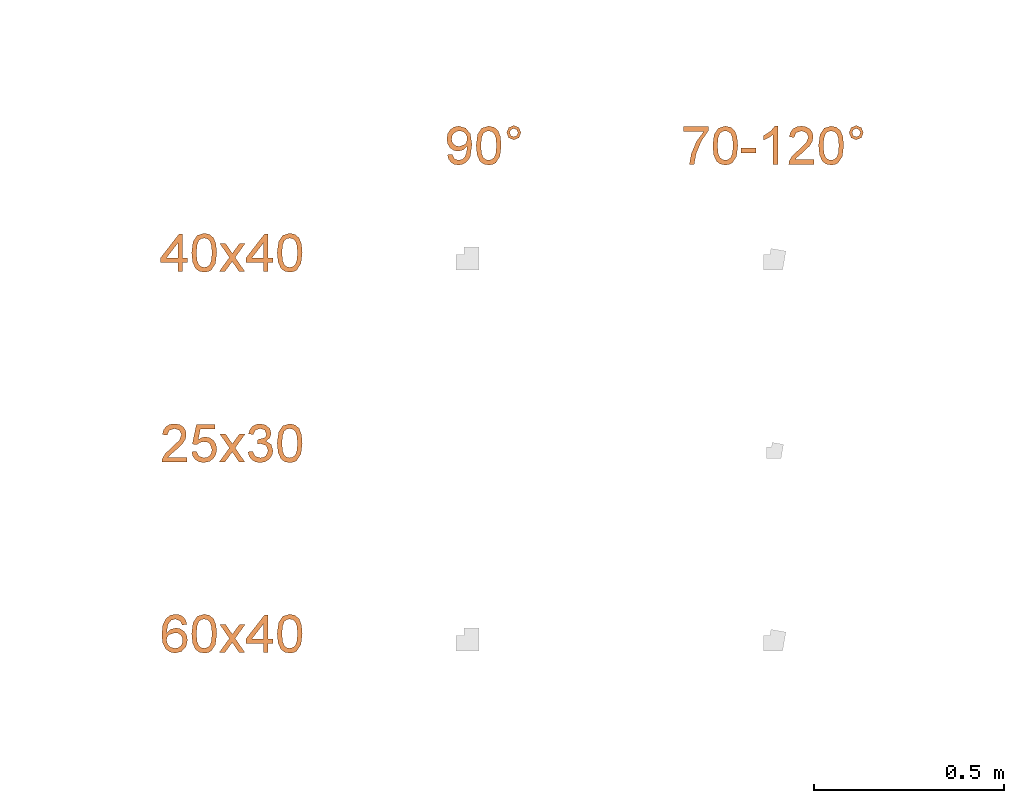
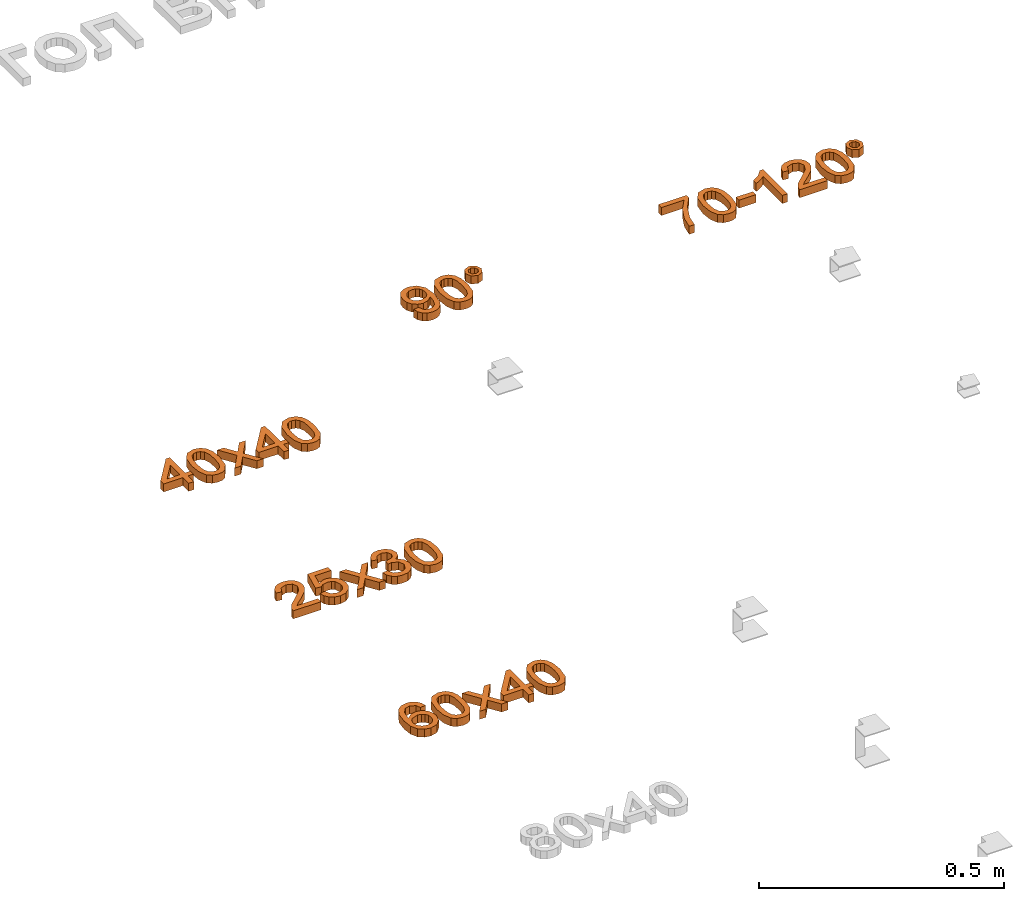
# One storey, part 61 of 71: 5 proxies.
"""IFC2X3 building model written with IfcOpenShell, lengths in millimetres."""

from ifc_helpers import new_model, entity, si_unit, converted_unit, derived_unit, direction, frame, frame_2d, origin, place, context, subcontext, project, spatial, polyline, rectangle, outline, extrude, element, save


model = new_model("IFC2X3")

# Units and contexts
model_context = context("Model", 3, precision=0.01, world=origin(), true_north=direction((6.12303176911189e-17, 1.0)))
body_context = subcontext(model_context, "Body", "Model", "MODEL_VIEW")
ifc_project = project(units=[si_unit("LENGTHUNIT", "METRE", prefix="MILLI"), si_unit("AREAUNIT", "SQUARE_METRE"), si_unit("VOLUMEUNIT", "CUBIC_METRE"), converted_unit("PLANEANGLEUNIT", "DEGREE", entity("IfcRatioMeasure", 0.0174532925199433), si_unit("PLANEANGLEUNIT", "RADIAN"), dimensions=[0, 0, 0, 0, 0, 0, 0]), si_unit("MASSUNIT", "GRAM", prefix="KILO"), derived_unit("MASSDENSITYUNIT", [(si_unit("MASSUNIT", "GRAM", prefix="KILO"), 1), (si_unit("LENGTHUNIT", "METRE"), -3)]), si_unit("TIMEUNIT", "SECOND"), si_unit("FREQUENCYUNIT", "HERTZ"), si_unit("THERMODYNAMICTEMPERATUREUNIT", "DEGREE_CELSIUS"), derived_unit("THERMALTRANSMITTANCEUNIT", [(si_unit("MASSUNIT", "GRAM", prefix="KILO"), 1), (si_unit("THERMODYNAMICTEMPERATUREUNIT", "KELVIN"), -1), (si_unit("TIMEUNIT", "SECOND"), -3)]), derived_unit("VOLUMETRICFLOWRATEUNIT", [(si_unit("LENGTHUNIT", "METRE"), 3), (si_unit("TIMEUNIT", "SECOND"), -1)]), si_unit("ELECTRICCURRENTUNIT", "AMPERE"), si_unit("ELECTRICVOLTAGEUNIT", "VOLT"), si_unit("POWERUNIT", "WATT"), si_unit("FORCEUNIT", "NEWTON", prefix="KILO"), si_unit("ILLUMINANCEUNIT", "LUX"), si_unit("LUMINOUSFLUXUNIT", "LUMEN"), si_unit("LUMINOUSINTENSITYUNIT", "CANDELA"), derived_unit("USERDEFINED", [(si_unit("MASSUNIT", "GRAM", prefix="KILO"), -1), (si_unit("LENGTHUNIT", "METRE"), -2), (si_unit("TIMEUNIT", "SECOND"), 3), (si_unit("LUMINOUSFLUXUNIT", "LUMEN"), 1)]), derived_unit("LINEARVELOCITYUNIT", [(si_unit("LENGTHUNIT", "METRE"), 1), (si_unit("TIMEUNIT", "SECOND"), -1)]), si_unit("PRESSUREUNIT", "PASCAL"), derived_unit("USERDEFINED", [(si_unit("LENGTHUNIT", "METRE"), -2), (si_unit("MASSUNIT", "GRAM", prefix="KILO"), 1), (si_unit("TIMEUNIT", "SECOND"), -2)])], contexts=[model_context])

# Site, building, storey
site_placement = place(None, origin())
site = spatial("IfcSite", under=ifc_project, at=site_placement, Name="Default", CompositionType="ELEMENT")
building_placement = place(site_placement, origin())
building = spatial("IfcBuilding", under=site, at=building_placement, Name="Наименование здания", CompositionType="ELEMENT")
storey_placement = place(building_placement, origin())
storey = spatial("IfcBuildingStorey", under=building, at=storey_placement, Name="Этаж 01", CompositionType="ELEMENT", Elevation=0.0)

# Proxies
proxy_1_placement = place(storey_placement, origin())
element("IfcBuildingElementProxy", 1, at=proxy_1_placement, inside=storey, Name="Текст модели:100 мм Arial", ObjectType="Текст модели:100 мм Arial", context=body_context, shape_type="SweptSolid", body=[
    extrude(outline(polyline([(-1.14154897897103, -36.3868737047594), (11.4154897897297, -36.3868737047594), (11.4154897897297, -12.8424260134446), (23.9725285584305, -12.8424260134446), (23.9725285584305, -0.285387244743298), (11.4154897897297, -0.285387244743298), (11.4154897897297, 62.4998065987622), (1.99771071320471, 62.4998065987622), (-46.6608145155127, -0.285387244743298), (-46.6608145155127, -12.8424260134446), (-1.14154897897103, -12.8424260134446), (-1.14154897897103, -36.3868737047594)]), holes=[polyline([(-1.14154897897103, -0.285387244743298), (-31.2097707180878, -0.285387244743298), (-1.14154897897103, 38.5139005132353), (-1.14154897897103, -0.285387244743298)])]), frame((18100.8514616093, 3073.05161790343, 0.0)), (0.0, 0.0, 1.0), 20.0),
    extrude(outline(polyline([(-7.02884310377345, -33.3490673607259), (17.532380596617, -33.3490673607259), (35.1984171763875, -27.6137612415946), (43.3439841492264, -18.4876517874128), (47.0516941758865, -5.75150665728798), (46.7162020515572, 4.48638208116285), (43.4465778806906, 13.095528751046), (27.9444305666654, 25.6659118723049), (-0.314338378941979, 32.2325535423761), (-24.0296505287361, 32.3678288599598), (-39.4143020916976, 28.0260881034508), (-49.7293680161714, 18.9002174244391), (-54.4436715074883, 4.63998875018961), (-50.8676582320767, -14.1301059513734), (-35.4058547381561, -26.7333390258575), (-7.02884310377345, -33.3490673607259)]), holes=[polyline([(-5.77428774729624, -20.8548320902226), (-25.0157644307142, -17.356286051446), (-36.7257089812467, -11.5717922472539), (-41.0962588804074, -4.7759968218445), (-41.9669219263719, 3.21464792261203), (-39.2244253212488, 11.2791292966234), (-32.8654063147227, 17.222925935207), (-20.9698370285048, 20.2947501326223), (-1.61768958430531, 19.7433141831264), (17.8514140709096, 16.2707701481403), (28.7803640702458, 10.714159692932), (33.5546988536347, 3.61815959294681), (34.5599568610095, -4.47255337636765), (31.9421230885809, -12.1923199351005), (25.8471825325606, -18.1754808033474), (14.0250679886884, -21.4027476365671), (-5.77428774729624, -20.8548320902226)])]), frame((18169.7029366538, 3082.487921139, 0.0), z_axis=(0.0, 0.0, 1.0), x_axis=(0.1018515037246, -0.994799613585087, 0.0)), (0.0, 0.0, 1.0), 20.0),
    extrude(outline(polyline([(-34.530221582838, -38.4265006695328), (-19.422534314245, -38.4265006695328), (-0.341721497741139, -12.0616243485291), (2.47870713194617, -16.1328517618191), (17.8561745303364, -38.4265006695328), (32.9638617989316, -38.4265006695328), (7.40832586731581, -1.34399555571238), (33.944880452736, 35.3461020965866), (18.8371931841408, 35.3461020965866), (4.95577923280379, 16.1671874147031), (0.0261604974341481, 9.34910777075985), (-5.66374769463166, 17.6877663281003), (-17.8529044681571, 35.3461020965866), (-32.9605917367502, 35.3461020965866), (-7.6993614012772, -1.34399555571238), (-34.530221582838, -38.4265006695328)])), frame((18242.5445935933, 3075.0912448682, 0.0)), (0.0, 0.0, 1.0), 20.0),
    extrude(outline(polyline([(-1.14154897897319, -36.3868737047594), (11.4154897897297, -36.3868737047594), (11.4154897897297, -12.8424260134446), (23.9725285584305, -12.8424260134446), (23.9725285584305, -0.285387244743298), (11.4154897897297, -0.285387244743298), (11.4154897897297, 62.4998065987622), (1.99771071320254, 62.4998065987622), (-46.6608145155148, -0.285387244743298), (-46.6608145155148, -12.8424260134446), (-1.14154897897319, -12.8424260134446), (-1.14154897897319, -36.3868737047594)]), holes=[polyline([(-1.14154897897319, -0.285387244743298), (-31.2097707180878, -0.285387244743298), (-1.14154897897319, 38.5139005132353), (-1.14154897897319, -0.285387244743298)])]), frame((18325.3085295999, 3073.05161790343, 0.0)), (0.0, 0.0, 1.0), 20.0),
    extrude(outline(polyline([(-7.02884310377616, -33.3490673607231), (17.5323805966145, -33.3490673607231), (35.1984171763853, -27.6137612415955), (43.343984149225, -18.4876517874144), (47.0516941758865, -5.75150665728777), (46.716202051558, 4.48638208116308), (43.4465778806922, 13.0955287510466), (27.9444305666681, 25.6659118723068), (-0.314338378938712, 32.2325535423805), (-24.0296505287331, 32.367828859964), (-39.4143020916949, 28.0260881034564), (-49.7293680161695, 18.9002174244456), (-54.4436715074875, 4.63998875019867), (-50.8676582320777, -14.1301059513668), (-35.405854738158, -26.7333390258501), (-7.02884310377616, -33.3490673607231)]), holes=[polyline([(-5.77428774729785, -20.85483209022), (-25.0157644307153, -17.3562860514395), (-36.7257089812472, -11.5717922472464), (-41.0962588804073, -4.77599682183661), (-41.9669219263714, 3.21464792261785), (-39.2244253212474, 11.2791292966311), (-32.8654063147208, 17.2229259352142), (-20.9698370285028, 20.2947501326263), (-1.61768958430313, 19.7433141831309), (17.8514140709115, 16.2707701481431), (28.7803640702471, 10.7141596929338), (33.5546988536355, 3.61815959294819), (34.5599568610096, -4.47255337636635), (31.9421230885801, -12.1923199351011), (25.8471825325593, -18.1754808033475), (14.0250679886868, -21.4027476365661), (-5.77428774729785, -20.85483209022)])]), frame((18394.1600046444, 3082.487921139, 0.0), z_axis=(0.0, 0.0, 1.0), x_axis=(0.101851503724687, -0.994799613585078, 0.0)), (0.0, 0.0, 1.0), 20.0),
])
proxy_2_placement = place(storey_placement, origin())
element("IfcBuildingElementProxy", 2, at=proxy_2_placement, inside=storey, Name="Текст модели:100 мм Arial", ObjectType="Текст модели:100 мм Arial", context=body_context, shape_type="SweptSolid", body=[
    extrude(outline(polyline([(-32.385878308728, -45.1669477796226), (-32.385878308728, -57.7239865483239), (33.5385752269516, -57.7239865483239), (32.1896745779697, -49.0664969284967), (24.5622545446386, -35.7369059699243), (8.84143061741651, -21.1810416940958), (-12.8390816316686, -0.260818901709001), (-18.2592096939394, 13.9639515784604), (-13.1456499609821, 25.4786580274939), (0.208466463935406, 30.1752848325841), (14.1266686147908, 25.5890226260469), (19.4119066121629, 12.9093565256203), (31.9689453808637, 14.4789863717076), (28.9247218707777, 26.6252235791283), (22.3426998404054, 35.4973110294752), (12.5662358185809, 40.9235704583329), (-0.0613136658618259, 42.7323236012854), (-12.7808336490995, 40.7212353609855), (-22.5389035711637, 34.6879706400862), (-28.746912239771, 25.6748617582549), (-30.8162484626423, 14.7242410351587), (-28.5844310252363, 2.81712712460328), (-21.1654774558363, -9.49465698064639), (-3.17604789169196, -26.6992716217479), (11.2694517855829, -38.7780637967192), (16.9348345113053, -45.1669477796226), (-32.385878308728, -45.1669477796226)])), frame((18090.868482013, 2594.38873074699, 0.0), z_axis=(0.0, 0.0, -1.0), x_axis=(-1.0, 0.0, 0.0)), (0.0, 0.0, -1.0), 20.0),
    extrude(outline(polyline([(3.81439562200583, -37.2548959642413), (15.7323946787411, -37.2548959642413), (26.1588137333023, -33.0579698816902), (34.2921694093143, -25.053720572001), (39.3309783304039, -13.6317508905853), (40.2219288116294, 1.43409098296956), (34.3991305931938, 14.6815107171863), (25.5350217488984, 23.1481891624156), (13.9054384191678, 28.2770976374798), (0.912111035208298, 29.4702838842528), (-10.7159258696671, 25.7768606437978), (-19.7427074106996, 18.0989984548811), (-24.9322687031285, 7.33886785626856), (-25.5937300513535, -2.21124798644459), (-22.6370240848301, -12.2793380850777), (-47.9924930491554, 0.020488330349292), (-38.0977082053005, 37.232406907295), (-50.2330599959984, 40.4592412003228), (-62.7370428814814, -6.56524698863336), (-15.5021967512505, -30.4943712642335), (-10.7584434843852, -18.7623737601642), (-14.421629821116, -10.4922324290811), (-13.6981616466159, 0.722667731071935), (-9.98738154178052, 9.35727561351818), (-4.32553373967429, 14.6878856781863), (11.4370636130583, 15.9400687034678), (19.748168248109, 12.2772427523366), (25.4355726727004, 6.40632241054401), (28.0665145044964, -1.2721201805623), (27.2082313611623, -10.3575128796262), (19.6530635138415, -21.9256319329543), (5.52431094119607, -24.7161898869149), (3.81439562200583, -37.2548959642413)])), frame((18170.8350104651, 2576.60829824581, 0.0), z_axis=(0.0, 0.0, 1.0), x_axis=(0.256974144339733, -0.966418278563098, 0.0)), (0.0, 0.0, 1.0), 20.0),
    extrude(outline(polyline([(-34.530221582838, -38.4265006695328), (-19.422534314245, -38.4265006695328), (-0.341721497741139, -12.0616243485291), (2.47870713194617, -16.1328517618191), (17.8561745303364, -38.4265006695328), (32.9638617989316, -38.4265006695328), (7.40832586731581, -1.34399555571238), (33.944880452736, 35.3461020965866), (18.8371931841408, 35.3461020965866), (4.95577923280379, 16.1671874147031), (0.0261604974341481, 9.34910777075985), (-5.66374769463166, 17.6877663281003), (-17.8529044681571, 35.3461020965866), (-32.9605917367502, 35.3461020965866), (-7.6993614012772, -1.34399555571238), (-34.530221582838, -38.4265006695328)])), frame((18242.5445935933, 2575.0912448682, 0.0)), (0.0, 0.0, 1.0), 20.0),
    extrude(outline(polyline([(12.9398224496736, -39.4228746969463), (24.7070155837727, -39.4228746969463), (35.2334179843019, -35.1796885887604), (43.5392113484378, -27.2068749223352), (48.6445773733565, -16.0179922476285), (49.9667297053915, -2.46420805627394), (46.1713151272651, 9.85942403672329), (38.2123508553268, 19.5155094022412), (27.0438541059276, 25.0666534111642), (10.0202742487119, 24.7454624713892), (-1.87398827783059, 13.8140826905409), (-7.17156856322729, 25.9452321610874), (-17.4163250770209, 32.3622268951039), (-30.6023287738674, 32.172341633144), (-42.4844766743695, 24.4416767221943), (-49.8086882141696, 10.7455169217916), (-51.0194511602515, -0.289536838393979), (-48.3411699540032, -10.3555163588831), (-41.9598673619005, -18.9246782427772), (-32.0615661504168, -25.469279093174), (-27.2304373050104, -13.7729910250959), (-36.958213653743, -4.725857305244), (-37.5811201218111, 7.85403171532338), (-30.7090409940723, 18.2284262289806), (-20.0239599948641, 20.0569105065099), (-14.1616694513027, 16.8110341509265), (-11.0038541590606, 11.0256101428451), (-11.2910014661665, -3.66989129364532), (-11.964206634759, -5.57066078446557), (-0.222565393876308, -10.2362102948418), (0.778769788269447, -1.38153044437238), (9.50511511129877, 11.0278528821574), (23.5137057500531, 13.0140189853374), (35.3107062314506, 3.90868905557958), (37.5820165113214, -3.60465058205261), (36.6502541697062, -12.2749561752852), (29.3231481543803, -23.7071568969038), (14.7432148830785, -26.8972714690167), (12.9398224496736, -39.4228746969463)])), frame((18317.9605854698, 2586.24313576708, 0.0), z_axis=(0.0, 0.0, 1.0), x_axis=(0.264175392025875, -0.964474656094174, 0.0)), (0.0, 0.0, 1.0), 20.0),
    extrude(outline(polyline([(-7.02884310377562, -33.3490673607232), (17.5323805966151, -33.3490673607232), (35.1984171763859, -27.6137612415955), (43.3439841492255, -18.4876517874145), (47.051694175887, -5.75150665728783), (46.7162020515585, 4.48638208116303), (43.4465778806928, 13.0955287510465), (27.9444305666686, 25.6659118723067), (-0.314338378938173, 32.2325535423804), (-24.0296505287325, 32.367828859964), (-39.4143020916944, 28.0260881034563), (-49.729368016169, 18.9002174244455), (-54.4436715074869, 4.63998875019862), (-50.8676582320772, -14.1301059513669), (-35.4058547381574, -26.7333390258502), (-7.02884310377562, -33.3490673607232)]), holes=[polyline([(-5.77428774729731, -20.85483209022), (-25.0157644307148, -17.3562860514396), (-36.7257089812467, -11.5717922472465), (-41.0962588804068, -4.77599682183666), (-41.9669219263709, 3.21464792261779), (-39.2244253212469, 11.2791292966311), (-32.8654063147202, 17.2229259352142), (-20.9698370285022, 20.2947501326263), (-1.61768958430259, 19.7433141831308), (17.851414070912, 16.270770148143), (28.7803640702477, 10.7141596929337), (33.554698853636, 3.61815959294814), (34.5599568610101, -4.47255337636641), (31.9421230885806, -12.1923199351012), (25.8471825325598, -18.1754808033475), (14.0250679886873, -21.4027476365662), (-5.77428774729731, -20.85483209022)])]), frame((18394.1600046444, 2582.48792113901, 0.0), z_axis=(0.0, 0.0, 1.0), x_axis=(0.101851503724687, -0.994799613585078, 0.0)), (0.0, 0.0, 1.0), 20.0),
])
proxy_3_placement = place(storey_placement, origin())
element("IfcBuildingElementProxy", 3, at=proxy_3_placement, inside=storey, Name="Текст модели:100 мм Arial", ObjectType="Текст модели:100 мм Arial", context=body_context, shape_type="SweptSolid", body=[
    extrude(outline(polyline([(6.79275401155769, -32.502776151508), (18.3659045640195, -32.502776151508), (28.1525204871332, -28.8011371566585), (35.6312934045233, -21.7178704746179), (40.2809149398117, -11.5729874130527), (41.4130789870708, 3.23667074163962), (36.1391243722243, 16.3729018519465), (21.8599739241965, 28.880326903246), (-1.50836821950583, 38.2054593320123), (-23.6059131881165, 41.7609274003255), (-39.9814227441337, 38.5965283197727), (-51.1650797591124, 29.9216784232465), (-57.687067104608, 16.9457940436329), (-57.9805556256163, -0.0494879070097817), (-49.2081886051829, -14.3141019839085), (-33.6167855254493, -22.9350568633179), (-20.6265742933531, -24.250233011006), (-8.97800352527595, -20.6254922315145), (0.091902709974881, -13.0350962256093), (5.34612034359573, -2.45330669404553), (5.85483161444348, 11.6447254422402), (-0.843339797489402, 24.9910631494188), (19.7707676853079, 15.5765036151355), (28.484099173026, 4.26766164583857), (28.3893512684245, -7.46374532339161), (19.9956250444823, -18.1936336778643), (8.6330358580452, -19.9825396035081), (6.79275401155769, -32.502776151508)]), holes=[polyline([(-18.7586717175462, 29.954959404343), (-11.6328110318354, 26.3613362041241), (-6.9415407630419, 20.2038317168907), (-5.85783236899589, 4.1376106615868), (-9.48331864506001, -3.95286412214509), (-15.107739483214, -9.26901644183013), (-22.3091633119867, -11.596909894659), (-30.6656585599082, -10.7226080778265), (-38.6094491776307, -7.06141592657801), (-43.8637090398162, -1.22509865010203), (-46.1835287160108, 6.17768396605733), (-45.3239987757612, 14.5382721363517), (-39.6901171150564, 24.7221971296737), (-30.016813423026, 30.0585493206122), (-18.7586717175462, 29.954959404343)])]), frame((18093.7454554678, 2095.2124824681, 0.0), z_axis=(0.0, 0.0, 1.0), x_axis=(-0.267015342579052, 0.963692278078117, 0.0)), (0.0, 0.0, 1.0), 20.0),
    extrude(outline(polyline([(-7.02884310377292, -33.349067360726), (17.5323805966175, -33.349067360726), (35.1984171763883, -27.6137612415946), (43.3439841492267, -18.4876517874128), (47.0516941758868, -5.75150665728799), (46.7162020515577, 4.4863820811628), (43.4465778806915, 13.095528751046), (27.9444305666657, 25.6659118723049), (-0.314338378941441, 32.2325535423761), (-24.0296505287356, 32.3678288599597), (-39.4143020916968, 28.0260881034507), (-49.7293680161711, 18.900217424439), (-54.4436715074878, 4.63998875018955), (-50.8676582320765, -14.1301059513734), (-35.4058547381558, -26.7333390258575), (-7.02884310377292, -33.349067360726)]), holes=[polyline([(-5.7742877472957, -20.8548320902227), (-25.015764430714, -17.3562860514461), (-36.7257089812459, -11.571792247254), (-41.0962588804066, -4.7759968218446), (-41.9669219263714, 3.21464792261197), (-39.224425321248, 11.2791292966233), (-32.8654063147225, 17.222925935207), (-20.9698370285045, 20.2947501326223), (-1.61768958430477, 19.7433141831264), (17.8514140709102, 16.2707701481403), (28.7803640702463, 10.7141596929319), (33.5546988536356, 3.61815959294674), (34.5599568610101, -4.47255337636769), (31.9421230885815, -12.1923199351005), (25.8471825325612, -18.1754808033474), (14.025067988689, -21.4027476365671), (-5.7742877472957, -20.8548320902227)])]), frame((18169.7029366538, 2082.487921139, 0.0), z_axis=(0.0, 0.0, 1.0), x_axis=(0.1018515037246, -0.994799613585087, 0.0)), (0.0, 0.0, 1.0), 20.0),
    extrude(outline(polyline([(-34.530221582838, -38.4265006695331), (-19.422534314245, -38.4265006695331), (-0.341721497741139, -12.0616243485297), (2.47870713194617, -16.1328517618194), (17.8561745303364, -38.4265006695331), (32.9638617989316, -38.4265006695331), (7.40832586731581, -1.34399555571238), (33.944880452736, 35.3461020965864), (18.8371931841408, 35.3461020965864), (4.95577923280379, 16.1671874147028), (0.0261604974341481, 9.34910777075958), (-5.66374769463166, 17.6877663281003), (-17.8529044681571, 35.3461020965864), (-32.9605917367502, 35.3461020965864), (-7.6993614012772, -1.34399555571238), (-34.530221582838, -38.4265006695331)])), frame((18242.5445935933, 2075.0912448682, 0.0)), (0.0, 0.0, 1.0), 20.0),
    extrude(outline(polyline([(-1.14154897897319, -36.3868737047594), (11.4154897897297, -36.3868737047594), (11.4154897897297, -12.8424260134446), (23.9725285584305, -12.8424260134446), (23.9725285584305, -0.285387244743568), (11.4154897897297, -0.285387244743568), (11.4154897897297, 62.4998065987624), (1.99771071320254, 62.4998065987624), (-46.6608145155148, -0.285387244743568), (-46.6608145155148, -12.8424260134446), (-1.14154897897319, -12.8424260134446), (-1.14154897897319, -36.3868737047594)]), holes=[polyline([(-1.14154897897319, -0.285387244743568), (-31.2097707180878, -0.285387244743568), (-1.14154897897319, 38.5139005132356), (-1.14154897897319, -0.285387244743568)])]), frame((18325.3085295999, 2073.05161790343, 0.0)), (0.0, 0.0, 1.0), 20.0),
    extrude(outline(polyline([(-7.02884310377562, -33.3490673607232), (17.5323805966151, -33.3490673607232), (35.1984171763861, -27.6137612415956), (43.3439841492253, -18.4876517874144), (47.0516941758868, -5.75150665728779), (46.7162020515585, 4.48638208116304), (43.446577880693, 13.0955287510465), (27.9444305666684, 25.6659118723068), (-0.314338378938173, 32.2325535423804), (-24.0296505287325, 32.367828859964), (-39.4143020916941, 28.0260881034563), (-49.7293680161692, 18.9002174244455), (-54.4436715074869, 4.63998875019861), (-50.8676582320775, -14.1301059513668), (-35.4058547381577, -26.7333390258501), (-7.02884310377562, -33.3490673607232)]), holes=[polyline([(-5.77428774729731, -20.85483209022), (-25.015764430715, -17.3562860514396), (-36.7257089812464, -11.5717922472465), (-41.0962588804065, -4.7759968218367), (-41.9669219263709, 3.21464792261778), (-39.2244253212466, 11.279129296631), (-32.8654063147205, 17.2229259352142), (-20.9698370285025, 20.2947501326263), (-1.61768958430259, 19.7433141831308), (17.851414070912, 16.270770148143), (28.7803640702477, 10.7141596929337), (33.5546988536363, 3.61815959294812), (34.5599568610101, -4.4725533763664), (31.9421230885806, -12.1923199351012), (25.8471825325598, -18.1754808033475), (14.0250679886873, -21.4027476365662), (-5.77428774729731, -20.85483209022)])]), frame((18394.1600046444, 2082.487921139, 0.0), z_axis=(0.0, 0.0, 1.0), x_axis=(0.101851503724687, -0.994799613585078, 0.0)), (0.0, 0.0, 1.0), 20.0),
])
proxy_4_placement = place(storey_placement, origin())
element("IfcBuildingElementProxy", 4, at=proxy_4_placement, inside=storey, Name="Текст модели:100 мм Arial", ObjectType="Текст модели:100 мм Arial", context=body_context, shape_type="SweptSolid", body=[
    extrude(outline(polyline([(5.58296908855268, -31.7859506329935), (17.2387167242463, -31.7859506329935), (26.9216142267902, -28.1739915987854), (34.2072820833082, -21.2554963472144), (38.6713407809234, -11.3358876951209), (39.9245387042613, -0.903731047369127), (37.9450282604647, 8.926618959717), (32.7793953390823, 17.8190246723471), (24.4742258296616, 25.4373484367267), (-3.90517077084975, 37.3659164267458), (-32.1440557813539, 40.5619140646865), (-49.776907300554, 32.5319597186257), (-59.468326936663, 16.6032994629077), (-60.4499889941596, 4.02951589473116), (-56.4016296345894, -7.53444362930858), (-47.8362588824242, -16.8026666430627), (-35.266886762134, -22.4892406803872), (-21.9841856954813, -23.8222776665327), (-10.3310965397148, -20.2832716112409), (-1.40106329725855, -12.8047998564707), (3.71247002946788, -2.31943974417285), (3.73902096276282, 11.9281903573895), (-2.8599761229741, 24.0883984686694), (-0.471643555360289, 23.5260231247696), (13.133413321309, 18.0099957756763), (22.6158894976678, 11.2224941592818), (27.0079821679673, 2.9145290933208), (26.6924060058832, -7.52395807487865), (20.3410079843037, -16.894547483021), (7.30988926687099, -19.2495752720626), (5.58296908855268, -31.7859506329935)]), holes=[polyline([(-21.7672208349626, 29.1433710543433), (-13.9803799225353, 25.5922442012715), (-8.91107638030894, 19.8291378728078), (-7.47464573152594, 4.45415101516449), (-10.9717321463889, -3.43916536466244), (-16.5473789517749, -8.73312215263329), (-23.5758136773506, -11.1761402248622), (-31.4312638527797, -10.5166404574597), (-39.4119601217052, -6.85973803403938), (-44.9206699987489, -0.817312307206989), (-47.529759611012, 6.83624740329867), (-46.8115950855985, 15.3265517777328), (-43.3781823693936, 22.7799280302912), (-37.7148363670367, 27.7965691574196), (-30.338776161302, 30.0324064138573), (-21.7672208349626, 29.1433710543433)])]), frame((18836.4732792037, 3356.708590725, 0.0), z_axis=(0.0, 0.0, 1.0), x_axis=(0.258284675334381, -0.966068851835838, 0.0)), (0.0, 0.0, 1.0), 20.0),
    extrude(outline(polyline([(-7.02884310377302, -33.3490673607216), (17.5323805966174, -33.3490673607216), (35.198417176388, -27.6137612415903), (43.3439841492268, -18.4876517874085), (47.051694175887, -5.75150665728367), (46.7162020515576, 4.48638208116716), (43.4465778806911, 13.0955287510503), (27.9444305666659, 25.6659118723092), (-0.314338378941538, 32.2325535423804), (-24.0296505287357, 32.3678288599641), (-39.4143020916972, 28.0260881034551), (-49.7293680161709, 18.9002174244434), (-54.4436715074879, 4.63998875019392), (-50.8676582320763, -14.1301059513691), (-35.4058547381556, -26.7333390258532), (-7.02884310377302, -33.3490673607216)]), holes=[polyline([(-5.7742877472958, -20.8548320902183), (-25.0157644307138, -17.3562860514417), (-36.7257089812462, -11.5717922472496), (-41.0962588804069, -4.77599682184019), (-41.9669219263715, 3.21464792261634), (-39.2244253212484, 11.2791292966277), (-32.8654063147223, 17.2229259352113), (-20.9698370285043, 20.2947501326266), (-1.61768958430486, 19.7433141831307), (17.8514140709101, 16.2707701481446), (28.7803640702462, 10.7141596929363), (33.5546988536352, 3.61815959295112), (34.55995686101, -4.47255337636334), (31.9421230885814, -12.1923199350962), (25.8471825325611, -18.175480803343), (14.0250679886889, -21.4027476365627), (-5.7742877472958, -20.8548320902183)])]), frame((18916.4416279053, 3363.81433365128, 0.0), z_axis=(0.0, 0.0, 1.0), x_axis=(0.1018515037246, -0.994799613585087, 0.0)), (0.0, 0.0, 1.0), 20.0),
    extrude(outline(polyline([(-7.21350075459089, -17.3978764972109), (7.25185236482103, -17.3978764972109), (17.4056913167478, -7.22668745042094), (17.3916262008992, 7.2046723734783), (7.18917787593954, 17.4112581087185), (-7.21678573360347, 17.4264979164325), (-17.4034432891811, 7.17599118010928), (-17.404617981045, -7.19597913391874), (-7.21350075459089, -17.3978764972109)]), holes=[polyline([(-4.19028050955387, -10.1553501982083), (-10.1411551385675, -4.20284347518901), (-10.1327867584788, 4.2207575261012), (-4.20567624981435, 10.14232723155), (4.21128202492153, 10.1499783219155), (10.1621566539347, 4.19747159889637), (10.1725417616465, -4.18080500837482), (4.22667776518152, -10.1476991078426), (-4.19028050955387, -10.1553501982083)])]), frame((18981.4352378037, 3401.19226844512, 0.0), z_axis=(0.0, 0.0, 1.0), x_axis=(0.38232683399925, -0.924027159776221, 0.0)), (0.0, 0.0, 1.0), 20.0),
])
proxy_5_placement = place(storey_placement, origin())
element("IfcBuildingElementProxy", 5, at=proxy_5_placement, inside=storey, Name="Текст модели:100 мм Arial", ObjectType="Текст модели:100 мм Arial", context=body_context, shape_type="SweptSolid", body=[
    extrude(outline(polyline([(-33.1249866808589, -28.4339338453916), (-33.1249866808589, -40.9909726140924), (32.7994668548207, -40.9909726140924), (32.7994668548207, -30.837429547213), (14.0987987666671, -3.82262836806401), (-0.211810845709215, 30.5988636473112), (-4.87164945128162, 57.8957076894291), (-17.4286882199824, 57.8957076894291), (-12.4377558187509, 29.5687940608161), (1.25971713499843, -2.44920225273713), (20.2424280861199, -28.4339338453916), (-33.1249866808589, -28.4339338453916)])), frame((19459.8509731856, 3375.88686440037, 0.0), z_axis=(0.0, 0.0, -1.0), x_axis=(1.0, 0.0, 0.0)), (0.0, 0.0, -1.0), 20.0),
    extrude(outline(polyline([(-7.02884310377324, -33.3490673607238), (17.5323805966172, -33.3490673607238), (35.1984171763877, -27.6137612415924), (43.3439841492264, -18.4876517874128), (47.051694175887, -5.75150665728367), (46.7162020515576, 4.48638208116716), (43.4465778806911, 13.0955287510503), (27.9444305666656, 25.6659118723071), (-0.314338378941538, 32.2325535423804), (-24.0296505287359, 32.3678288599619), (-39.4143020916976, 28.0260881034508), (-49.7293680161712, 18.9002174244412), (-54.4436715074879, 4.63998875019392), (-50.8676582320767, -14.1301059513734), (-35.4058547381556, -26.7333390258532), (-7.02884310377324, -33.3490673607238)]), holes=[polyline([(-5.77428774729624, -20.8548320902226), (-25.0157644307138, -17.3562860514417), (-36.7257089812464, -11.5717922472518), (-41.0962588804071, -4.77599682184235), (-41.9669219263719, 3.21464792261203), (-39.2244253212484, 11.2791292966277), (-32.8654063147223, 17.2229259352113), (-20.9698370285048, 20.2947501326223), (-1.61768958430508, 19.7433141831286), (17.8514140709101, 16.2707701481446), (28.7803640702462, 10.7141596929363), (33.554698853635, 3.61815959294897), (34.55995686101, -4.47255337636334), (31.9421230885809, -12.1923199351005), (25.8471825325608, -18.1754808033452), (14.0250679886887, -21.4027476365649), (-5.77428774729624, -20.8548320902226)])]), frame((19537.5293865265, 3363.81433365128, 0.0), z_axis=(0.0, 0.0, 1.0), x_axis=(0.1018515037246, -0.994799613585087, 0.0)), (0.0, 0.0, 1.0), 20.0),
    extrude(rectangle(XDim=39.2407461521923, YDim=12.5570387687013, at=frame_2d((0.0, 2.70450328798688e-13), x_axis=(1.0, 0.0))), frame((19597.0308248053, 3354.09264317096, 0.0)), (0.0, 0.0, 1.0), 20.0),
    extrude(outline(polyline([(-63.8793021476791, -16.918484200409), (36.5770080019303, -16.918484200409), (36.5770080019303, -8.82508030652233), (23.21062884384, 2.34626961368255), (11.4629304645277, 20.7526321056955), (-0.40739524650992, 20.7526321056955), (5.93243780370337, 7.53340574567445), (14.4059864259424, -4.36144543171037), (-63.8793021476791, -4.36144543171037), (-63.8793021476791, -16.918484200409)])), frame((19657.8090179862, 3381.87045885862, 0.0), z_axis=(0.0, 0.0, 1.0), x_axis=(0.0, 1.0, 0.0)), (0.0, 0.0, 1.0), 20.0),
    extrude(outline(polyline([(-32.3858783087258, -45.1669477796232), (-32.3858783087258, -57.7239865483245), (33.5385752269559, -57.7239865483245), (32.1896745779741, -49.0664969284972), (24.5622545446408, -35.7369059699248), (8.84143061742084, -21.1810416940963), (-12.8390816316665, -0.260818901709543), (-18.2592096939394, 13.9639515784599), (-13.1456499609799, 25.4786580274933), (0.208466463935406, 30.1752848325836), (14.1266686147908, 25.5890226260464), (19.4119066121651, 12.9093565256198), (31.968945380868, 14.4789863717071), (28.9247218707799, 26.6252235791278), (22.3426998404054, 35.4973110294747), (12.5662358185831, 40.9235704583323), (-0.0613136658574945, 42.7323236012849), (-12.7808336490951, 40.721235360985), (-22.5389035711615, 34.6879706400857), (-28.746912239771, 25.6748617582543), (-30.816248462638, 14.7242410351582), (-28.584431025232, 2.81712712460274), (-21.1654774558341, -9.49465698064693), (-3.17604789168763, -26.6992716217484), (11.2694517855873, -38.7780637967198), (16.9348345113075, -45.1669477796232), (-32.3858783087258, -45.1669477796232)])), frame((19736.5194146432, 3375.71514325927, 0.0), z_axis=(0.0, 0.0, -1.0), x_axis=(-1.0, 0.0, 0.0)), (0.0, 0.0, -1.0), 20.0),
    extrude(outline(polyline([(-7.02884310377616, -33.3490673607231), (17.5323805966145, -33.3490673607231), (35.1984171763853, -27.6137612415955), (43.3439841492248, -18.4876517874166), (47.0516941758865, -5.75150665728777), (46.716202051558, 4.48638208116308), (43.4465778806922, 13.0955287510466), (27.9444305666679, 25.6659118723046), (-0.314338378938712, 32.2325535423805), (-24.0296505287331, 32.367828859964), (-39.4143020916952, 28.0260881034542), (-49.7293680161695, 18.9002174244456), (-54.4436715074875, 4.63998875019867), (-50.867658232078, -14.130105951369), (-35.405854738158, -26.7333390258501), (-7.02884310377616, -33.3490673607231)]), holes=[polyline([(-5.77428774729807, -20.8548320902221), (-25.0157644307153, -17.3562860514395), (-36.7257089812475, -11.5717922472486), (-41.0962588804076, -4.77599682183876), (-41.9669219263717, 3.21464792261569), (-39.2244253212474, 11.2791292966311), (-32.8654063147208, 17.2229259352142), (-20.969837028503, 20.2947501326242), (-1.61768958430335, 19.7433141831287), (17.8514140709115, 16.2707701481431), (28.7803640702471, 10.7141596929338), (33.5546988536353, 3.61815959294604), (34.5599568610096, -4.47255337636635), (31.9421230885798, -12.1923199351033), (25.8471825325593, -18.1754808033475), (14.0250679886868, -21.4027476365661), (-5.77428774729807, -20.8548320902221)])]), frame((19815.353869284, 3363.81433365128, 0.0), z_axis=(0.0, 0.0, 1.0), x_axis=(0.101851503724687, -0.994799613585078, 0.0)), (0.0, 0.0, 1.0), 20.0),
    extrude(outline(polyline([(-7.21350075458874, -17.3978764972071), (7.25185236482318, -17.3978764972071), (17.4056913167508, -7.22668745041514), (17.3916262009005, 7.2046723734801), (7.18917787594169, 17.4112581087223), (-7.21678573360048, 17.4264979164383), (-17.4034432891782, 7.17599118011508), (-17.4046179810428, -7.19597913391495), (-7.21350075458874, -17.3978764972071)]), holes=[polyline([(-4.19028050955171, -10.1553501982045), (-10.1411551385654, -4.20284347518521), (-10.1327867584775, 4.22075752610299), (-4.2056762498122, 10.1423272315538), (4.21128202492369, 10.1499783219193), (10.1621566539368, 4.19747159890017), (10.1725417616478, -4.18080500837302), (4.22667776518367, -10.1476991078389), (-4.19028050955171, -10.1553501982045)])]), frame((19880.3474791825, 3401.19226844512, 0.0), z_axis=(0.0, 0.0, 1.0), x_axis=(0.38232683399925, -0.924027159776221, 0.0)), (0.0, 0.0, 1.0), 20.0),
])

save(model, "model.ifc")
